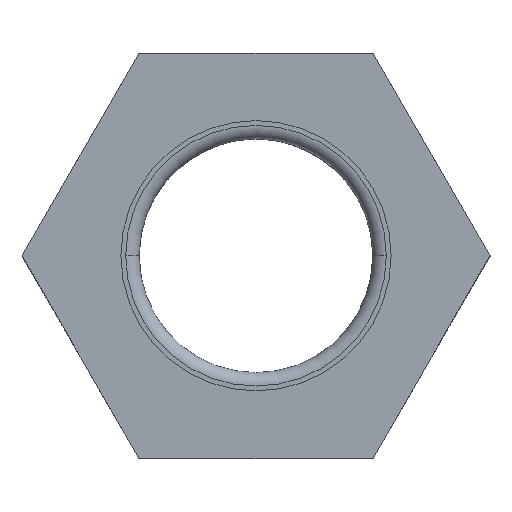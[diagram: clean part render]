
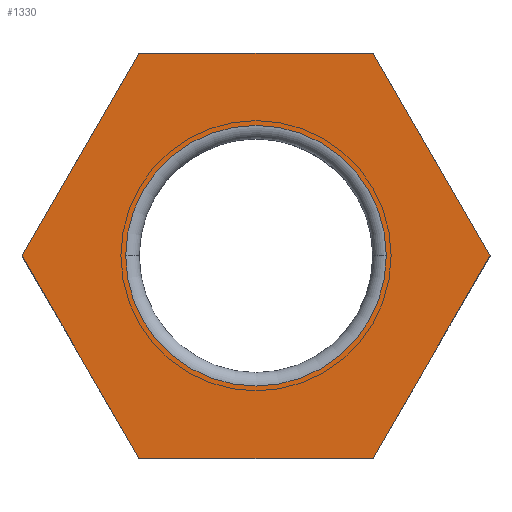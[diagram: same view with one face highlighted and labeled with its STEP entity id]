
A CAD part, top view. The second image highlights one B-rep face of the part: STEP entity #1330.
In plain terms, the highlighted planar face has unit normal (0, 0, 1).
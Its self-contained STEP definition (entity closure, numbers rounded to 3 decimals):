
#333=DIRECTION('',(-1.,0.,0.));
#334=VECTOR('',#333,20.785);
#335=CARTESIAN_POINT('',(31.177,18.,29.5));
#336=LINE('',#335,#334);
#337=DIRECTION('',(-0.5,0.866,0.));
#338=VECTOR('',#337,20.785);
#339=CARTESIAN_POINT('',(41.569,0.,29.5));
#340=LINE('',#339,#338);
#341=DIRECTION('',(0.5,0.866,0.));
#342=VECTOR('',#341,20.785);
#343=CARTESIAN_POINT('',(31.177,-18.,29.5));
#344=LINE('',#343,#342);
#345=DIRECTION('',(1.,0.,0.));
#346=VECTOR('',#345,20.785);
#347=CARTESIAN_POINT('',(10.392,-18.,29.5));
#348=LINE('',#347,#346);
#349=DIRECTION('',(0.5,-0.866,0.));
#350=VECTOR('',#349,20.785);
#351=CARTESIAN_POINT('',(0.,0.,29.5));
#352=LINE('',#351,#350);
#353=DIRECTION('',(-0.5,-0.866,0.));
#354=VECTOR('',#353,20.785);
#355=CARTESIAN_POINT('',(10.392,18.,29.5));
#356=LINE('',#355,#354);
#357=CARTESIAN_POINT('',(20.785,0.,29.5));
#358=DIRECTION('',(0.,0.,-1.));
#359=DIRECTION('',(1.,0.,0.));
#360=AXIS2_PLACEMENT_3D('',#357,#358,#359);
#377=CARTESIAN_POINT('',(20.785,0.,29.5));
#378=DIRECTION('',(0.,0.,-1.));
#379=DIRECTION('',(-1.,0.,0.));
#380=AXIS2_PLACEMENT_3D('',#377,#378,#379);
#661=CARTESIAN_POINT('',(31.177,18.,29.5));
#662=CARTESIAN_POINT('',(10.392,18.,29.5));
#663=VERTEX_POINT('',#661);
#664=VERTEX_POINT('',#662);
#665=CARTESIAN_POINT('',(0.,0.,29.5));
#666=VERTEX_POINT('',#665);
#667=CARTESIAN_POINT('',(10.392,-18.,29.5));
#668=VERTEX_POINT('',#667);
#669=CARTESIAN_POINT('',(31.177,-18.,29.5));
#670=VERTEX_POINT('',#669);
#671=CARTESIAN_POINT('',(41.569,0.,29.5));
#672=VERTEX_POINT('',#671);
#737=CARTESIAN_POINT('',(9.209,0.,29.5));
#738=CARTESIAN_POINT('',(32.361,0.,29.5));
#739=VERTEX_POINT('',#737);
#740=VERTEX_POINT('',#738);
#1308=CARTESIAN_POINT('',(0.,0.,29.5));
#1309=DIRECTION('',(0.,0.,1.));
#1310=DIRECTION('',(1.,0.,0.));
#1311=AXIS2_PLACEMENT_3D('',#1308,#1309,#1310);
#1312=PLANE('',#1311);
#1314=ORIENTED_EDGE('',*,*,#1313,.F.);
#1316=ORIENTED_EDGE('',*,*,#1315,.F.);
#1317=ORIENTED_EDGE('',*,*,#1298,.F.);
#1318=ORIENTED_EDGE('',*,*,#996,.F.);
#1320=ORIENTED_EDGE('',*,*,#1319,.F.);
#1321=ORIENTED_EDGE('',*,*,#1226,.F.);
#1322=EDGE_LOOP('',(#1314,#1316,#1317,#1318,#1320,#1321));
#1323=FACE_OUTER_BOUND('',#1322,.F.);
#1325=ORIENTED_EDGE('',*,*,#1324,.F.);
#1327=ORIENTED_EDGE('',*,*,#1326,.F.);
#1328=EDGE_LOOP('',(#1325,#1327));
#1329=FACE_BOUND('',#1328,.F.);
#361=CIRCLE('',#360,11.576);
#381=CIRCLE('',#380,11.576);
#996=EDGE_CURVE('',#668,#670,#348,.T.);
#1226=EDGE_CURVE('',#664,#666,#356,.T.);
#1298=EDGE_CURVE('',#670,#672,#344,.T.);
#1313=EDGE_CURVE('',#663,#664,#336,.T.);
#1315=EDGE_CURVE('',#672,#663,#340,.T.);
#1319=EDGE_CURVE('',#666,#668,#352,.T.);
#1324=EDGE_CURVE('',#740,#739,#361,.T.);
#1326=EDGE_CURVE('',#739,#740,#381,.T.);
#1330=ADVANCED_FACE('',(#1323,#1329),#1312,.T.);
